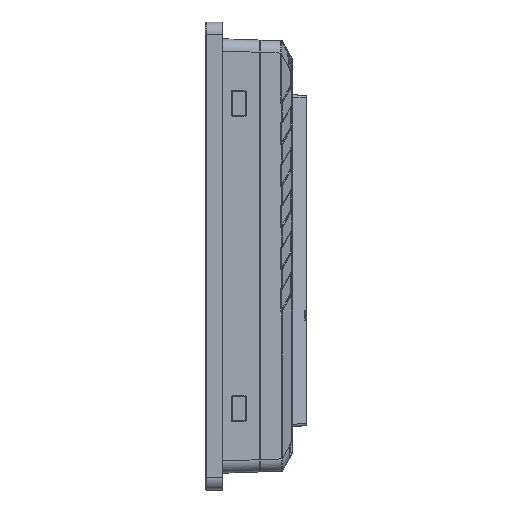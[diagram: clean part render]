
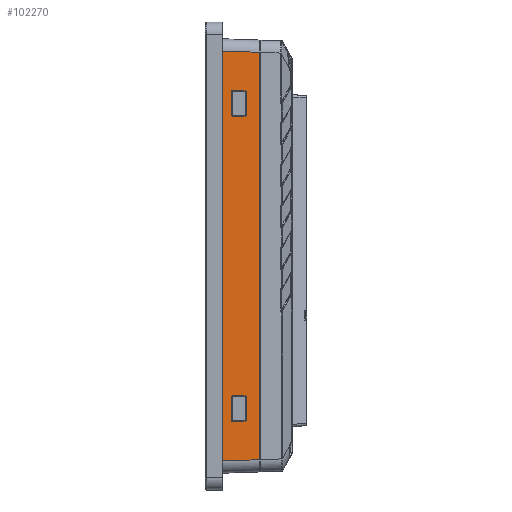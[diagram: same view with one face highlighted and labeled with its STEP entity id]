
A CAD part, left-side view. The second image highlights one B-rep face of the part: STEP entity #102270.
In plain terms, the highlighted planar face has unit normal (-0.999, -0.035, 0).
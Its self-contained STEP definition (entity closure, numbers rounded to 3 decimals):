
#28905=DIRECTION('',(0.035,-0.999,0.));
#28906=VECTOR('',#28905,3.852);
#28907=CARTESIAN_POINT('',(-129.484,3.75,-83.654));
#28908=LINE('',#28907,#28906);
#28913=CARTESIAN_POINT('',(-129.203,-4.314,
66.9));
#28914=DIRECTION('',(-0.999,-0.035,0.));
#28915=DIRECTION('',(0.,0.,1.));
#28916=AXIS2_PLACEMENT_3D('',#28913,#28914,#28915);
#28918=CARTESIAN_POINT('',(-129.203,-4.314,57.7));
#28919=DIRECTION('',(-0.999,-0.035,0.));
#28920=DIRECTION('',(-0.035,0.999,0.));
#28921=AXIS2_PLACEMENT_3D('',#28918,#28919,#28920);
#28923=CARTESIAN_POINT('',(-129.028,-9.315,
57.7));
#28924=DIRECTION('',(-0.999,-0.035,0.));
#28925=DIRECTION('',(0.,0.,-1.));
#28926=AXIS2_PLACEMENT_3D('',#28923,#28924,#28925);
#28928=CARTESIAN_POINT('',(-129.028,-9.315,
66.9));
#28929=DIRECTION('',(-0.999,-0.035,0.));
#28930=DIRECTION('',(0.035,-0.999,0.));
#28931=AXIS2_PLACEMENT_3D('',#28928,#28929,#28930);
#28933=CARTESIAN_POINT('',(-129.203,-4.314,
-57.7));
#28934=DIRECTION('',(-0.999,-0.035,0.));
#28935=DIRECTION('',(0.,0.,1.));
#28936=AXIS2_PLACEMENT_3D('',#28933,#28934,#28935);
#28938=CARTESIAN_POINT('',(-129.203,-4.314,
-66.9));
#28939=DIRECTION('',(-0.999,-0.035,0.));
#28940=DIRECTION('',(-0.035,0.999,0.));
#28941=AXIS2_PLACEMENT_3D('',#28938,#28939,#28940);
#28943=CARTESIAN_POINT('',(-129.028,-9.315,
-66.9));
#28944=DIRECTION('',(-0.999,-0.035,0.));
#28945=DIRECTION('',(0.,0.,-1.));
#28946=AXIS2_PLACEMENT_3D('',#28943,#28944,#28945);
#28948=CARTESIAN_POINT('',(-129.028,-9.315,
-57.7));
#28949=DIRECTION('',(-0.999,-0.035,0.));
#28950=DIRECTION('',(0.035,-0.999,0.));
#28951=AXIS2_PLACEMENT_3D('',#28948,#28949,#28950);
#28953=DIRECTION('',(0.,0.,-1.));
#28954=VECTOR('',#28953,167.308);
#28955=CARTESIAN_POINT('',(-129.484,3.75,83.654));
#28956=LINE('',#28955,#28954);
#28957=DIRECTION('',(0.035,-0.999,-0.035));
#28958=VECTOR('',#28957,15.018);
#28959=CARTESIAN_POINT('',(-129.35,-0.1,
83.653));
#28960=LINE('',#28959,#28958);
#28961=DIRECTION('',(-0.035,0.999,-0.035));
#28962=VECTOR('',#28961,15.018);
#28963=CARTESIAN_POINT('',(-128.826,-15.1,
-83.129));
#28964=LINE('',#28963,#28962);
#28980=DIRECTION('',(0.035,-0.999,0.));
#28981=VECTOR('',#28980,5.003);
#28982=CARTESIAN_POINT('',(-129.203,-4.314,
67.514));
#28983=LINE('',#28982,#28981);
#28999=DIRECTION('',(0.,0.,-1.));
#29000=VECTOR('',#28999,9.2);
#29001=CARTESIAN_POINT('',(-129.007,-9.929,
66.9));
#29002=LINE('',#29001,#29000);
#29018=DIRECTION('',(-0.035,0.999,0.));
#29019=VECTOR('',#29018,5.003);
#29020=CARTESIAN_POINT('',(-129.028,-9.314,
57.086));
#29021=LINE('',#29020,#29019);
#29037=DIRECTION('',(0.,0.,1.));
#29038=VECTOR('',#29037,9.2);
#29039=CARTESIAN_POINT('',(-129.224,-3.7,
57.7));
#29040=LINE('',#29039,#29038);
#29140=DIRECTION('',(0.035,-0.999,0.));
#29141=VECTOR('',#29140,5.003);
#29142=CARTESIAN_POINT('',(-129.203,-4.314,
-57.086));
#29143=LINE('',#29142,#29141);
#29159=DIRECTION('',(0.,0.,-1.));
#29160=VECTOR('',#29159,9.2);
#29161=CARTESIAN_POINT('',(-129.007,-9.929,
-57.7));
#29162=LINE('',#29161,#29160);
#29178=DIRECTION('',(-0.035,0.999,0.));
#29179=VECTOR('',#29178,5.003);
#29180=CARTESIAN_POINT('',(-129.028,-9.314,
-67.514));
#29181=LINE('',#29180,#29179);
#29197=DIRECTION('',(0.,0.,1.));
#29198=VECTOR('',#29197,9.2);
#29199=CARTESIAN_POINT('',(-129.224,-3.7,
-66.9));
#29200=LINE('',#29199,#29198);
#29294=DIRECTION('',(-0.035,0.999,0.));
#29295=VECTOR('',#29294,3.852);
#29296=CARTESIAN_POINT('',(-129.35,-0.1,
83.653));
#29297=LINE('',#29296,#29295);
#30409=DIRECTION('',(0.,0.,1.));
#30410=VECTOR('',#30409,166.258);
#30411=CARTESIAN_POINT('',(-128.826,-15.1,
-83.129));
#30412=LINE('',#30411,#30410);
#30718=CARTESIAN_POINT('',(-129.35,-0.1,
83.653));
#30736=CARTESIAN_POINT('',(-128.826,-15.1,
83.129));
#49696=VERTEX_POINT('',#30718);
#49697=VERTEX_POINT('',#30736);
#49698=CARTESIAN_POINT('',(-128.826,-15.1,
-83.129));
#49699=CARTESIAN_POINT('',(-129.35,-0.1,
-83.653));
#49700=VERTEX_POINT('',#49698);
#49701=VERTEX_POINT('',#49699);
#49702=CARTESIAN_POINT('',(-129.203,-4.314,
67.514));
#49703=CARTESIAN_POINT('',(-129.224,-3.7,
66.9));
#49704=VERTEX_POINT('',#49702);
#49705=VERTEX_POINT('',#49703);
#49706=CARTESIAN_POINT('',(-129.224,-3.7,
57.7));
#49707=VERTEX_POINT('',#49706);
#49708=CARTESIAN_POINT('',(-129.203,-4.314,
57.086));
#49709=VERTEX_POINT('',#49708);
#49710=CARTESIAN_POINT('',(-129.028,-9.314,
57.086));
#49711=VERTEX_POINT('',#49710);
#49712=CARTESIAN_POINT('',(-129.007,-9.929,
57.7));
#49713=VERTEX_POINT('',#49712);
#49714=CARTESIAN_POINT('',(-129.007,-9.929,
66.9));
#49715=VERTEX_POINT('',#49714);
#49716=CARTESIAN_POINT('',(-129.028,-9.314,
67.514));
#49717=VERTEX_POINT('',#49716);
#49718=CARTESIAN_POINT('',(-129.203,-4.314,
-57.086));
#49719=CARTESIAN_POINT('',(-129.224,-3.7,
-57.7));
#49720=VERTEX_POINT('',#49718);
#49721=VERTEX_POINT('',#49719);
#49722=CARTESIAN_POINT('',(-129.224,-3.7,
-66.9));
#49723=VERTEX_POINT('',#49722);
#49724=CARTESIAN_POINT('',(-129.203,-4.314,
-67.514));
#49725=VERTEX_POINT('',#49724);
#49726=CARTESIAN_POINT('',(-129.028,-9.314,
-67.514));
#49727=VERTEX_POINT('',#49726);
#49728=CARTESIAN_POINT('',(-129.007,-9.929,
-66.9));
#49729=VERTEX_POINT('',#49728);
#49730=CARTESIAN_POINT('',(-129.007,-9.929,
-57.7));
#49731=VERTEX_POINT('',#49730);
#49732=CARTESIAN_POINT('',(-129.028,-9.314,
-57.086));
#49733=VERTEX_POINT('',#49732);
#58109=CARTESIAN_POINT('',(-129.484,3.75,
83.654));
#58110=VERTEX_POINT('',#58109);
#58111=CARTESIAN_POINT('',(-129.484,3.75,-83.654));
#58112=VERTEX_POINT('',#58111);
#102217=CARTESIAN_POINT('',(-129.35,-0.1,-94.037));
#102218=DIRECTION('',(-0.999,-0.035,0.));
#102219=DIRECTION('',(0.,0.,-1.));
#102220=AXIS2_PLACEMENT_3D('',#102217,#102218,#102219);
#102221=PLANE('',#102220);
#102222=ORIENTED_EDGE('',*,*,#72669,.F.);
#102224=ORIENTED_EDGE('',*,*,#102223,.F.);
#102226=ORIENTED_EDGE('',*,*,#102225,.T.);
#102228=ORIENTED_EDGE('',*,*,#102227,.F.);
#102230=ORIENTED_EDGE('',*,*,#102229,.T.);
#102231=ORIENTED_EDGE('',*,*,#102209,.F.);
#102232=EDGE_LOOP('',(#102222,#102224,#102226,#102228,#102230,#102231));
#102233=FACE_OUTER_BOUND('',#102232,.F.);
#102235=ORIENTED_EDGE('',*,*,#102234,.T.);
#102237=ORIENTED_EDGE('',*,*,#102236,.F.);
#102239=ORIENTED_EDGE('',*,*,#102238,.T.);
#102241=ORIENTED_EDGE('',*,*,#102240,.F.);
#102243=ORIENTED_EDGE('',*,*,#102242,.T.);
#102245=ORIENTED_EDGE('',*,*,#102244,.F.);
#102247=ORIENTED_EDGE('',*,*,#102246,.T.);
#102249=ORIENTED_EDGE('',*,*,#102248,.F.);
#102250=EDGE_LOOP('',(#102235,#102237,#102239,#102241,#102243,#102245,#102247,
#102249));
#102251=FACE_BOUND('',#102250,.F.);
#102253=ORIENTED_EDGE('',*,*,#102252,.T.);
#102255=ORIENTED_EDGE('',*,*,#102254,.F.);
#102257=ORIENTED_EDGE('',*,*,#102256,.T.);
#102259=ORIENTED_EDGE('',*,*,#102258,.F.);
#102261=ORIENTED_EDGE('',*,*,#102260,.T.);
#102263=ORIENTED_EDGE('',*,*,#102262,.F.);
#102265=ORIENTED_EDGE('',*,*,#102264,.T.);
#102267=ORIENTED_EDGE('',*,*,#102266,.F.);
#102268=EDGE_LOOP('',(#102253,#102255,#102257,#102259,#102261,#102263,#102265,
#102267));
#102269=FACE_BOUND('',#102268,.F.);
#102270=ADVANCED_FACE('',(#102233,#102251,#102269),#102221,.T.);
#28917=CIRCLE('',#28916,0.614);
#28922=CIRCLE('',#28921,0.614);
#28927=CIRCLE('',#28926,0.614);
#28932=CIRCLE('',#28931,0.614);
#28937=CIRCLE('',#28936,0.614);
#28942=CIRCLE('',#28941,0.614);
#28947=CIRCLE('',#28946,0.614);
#28952=CIRCLE('',#28951,0.614);
#72669=EDGE_CURVE('',#58110,#58112,#28956,.T.);
#102209=EDGE_CURVE('',#58112,#49701,#28908,.T.);
#102223=EDGE_CURVE('',#49696,#58110,#29297,.T.);
#102225=EDGE_CURVE('',#49696,#49697,#28960,.T.);
#102227=EDGE_CURVE('',#49700,#49697,#30412,.T.);
#102229=EDGE_CURVE('',#49700,#49701,#28964,.T.);
#102234=EDGE_CURVE('',#49720,#49721,#28937,.T.);
#102236=EDGE_CURVE('',#49723,#49721,#29200,.T.);
#102238=EDGE_CURVE('',#49723,#49725,#28942,.T.);
#102240=EDGE_CURVE('',#49727,#49725,#29181,.T.);
#102242=EDGE_CURVE('',#49727,#49729,#28947,.T.);
#102244=EDGE_CURVE('',#49731,#49729,#29162,.T.);
#102246=EDGE_CURVE('',#49731,#49733,#28952,.T.);
#102248=EDGE_CURVE('',#49720,#49733,#29143,.T.);
#102252=EDGE_CURVE('',#49704,#49705,#28917,.T.);
#102254=EDGE_CURVE('',#49707,#49705,#29040,.T.);
#102256=EDGE_CURVE('',#49707,#49709,#28922,.T.);
#102258=EDGE_CURVE('',#49711,#49709,#29021,.T.);
#102260=EDGE_CURVE('',#49711,#49713,#28927,.T.);
#102262=EDGE_CURVE('',#49715,#49713,#29002,.T.);
#102264=EDGE_CURVE('',#49715,#49717,#28932,.T.);
#102266=EDGE_CURVE('',#49704,#49717,#28983,.T.);
